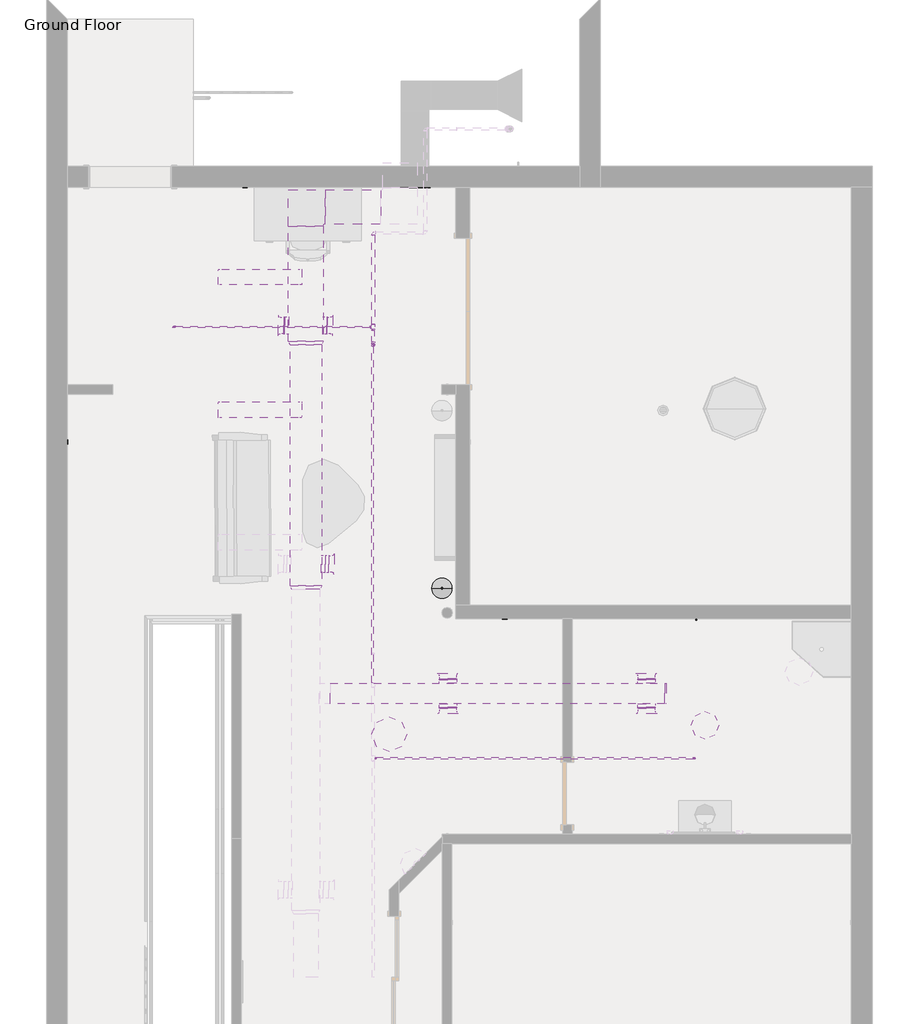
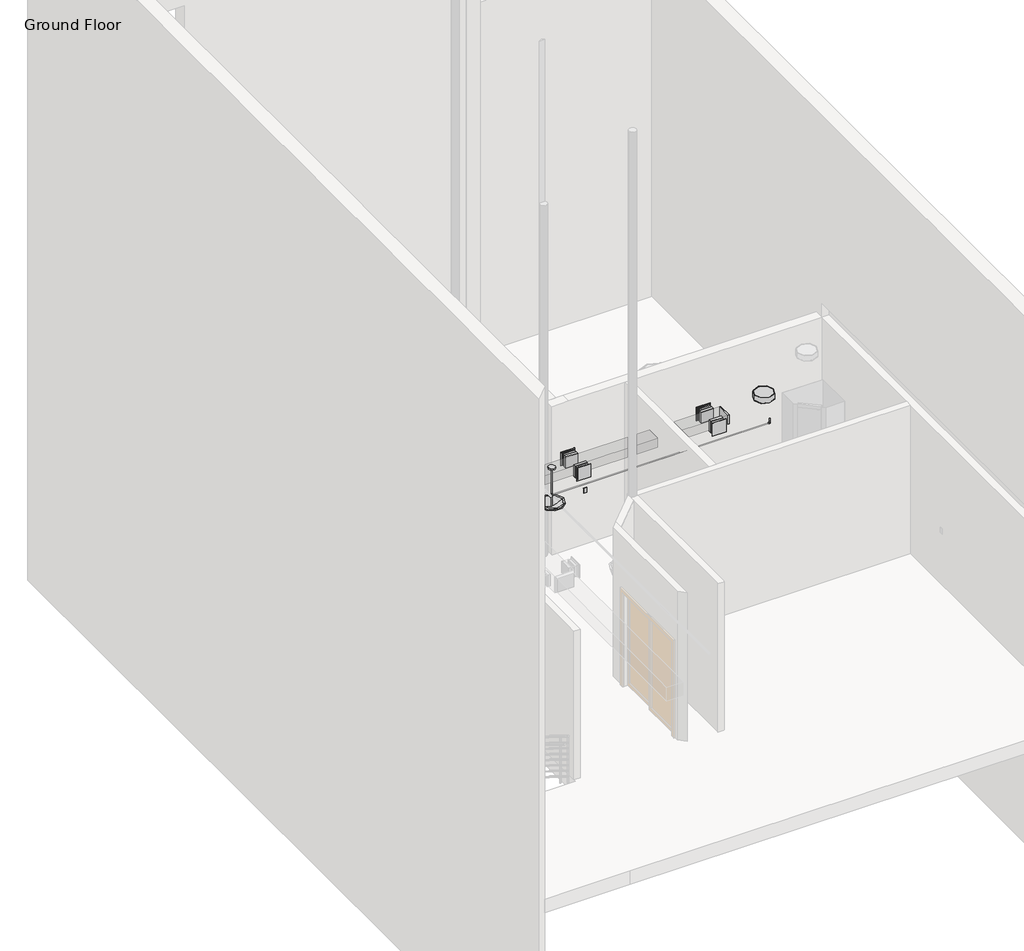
# One storey, part 3 of 4: 21 pipe fittings, 19 pipe segments, 11 duct fittings, 11 duct segments, 8 air terminals, 5 light fixtures, 3 fire suppression terminals, 3 proxies.
"""IFC4 building model written with IfcOpenShell, lengths in millimetres."""

from ifc_helpers import new_model, si_unit, point, frame, frame_2d, origin, place, context, project, spatial, polyline, circle_curve, trimmed, segment, composite_curve, outline, extrude, transform, mapped, element, save
from components import air_terminal_37217d21, air_terminal_0139ce82, air_terminal_831a3b9e, receptacle_gfci_367a9a66, rectangular_duct_endcap_standard_9757fa8c, rectangular_duct_mitered_elbow_standard_69e3689b, rectangular_duct_takeoff_sidewall_standard_8ecd27dc, rectangular_duct_takeoff_sidewall_standard_de4d9739, rectangular_duct_transition_standard_ec693d8a, rectangular_duct_transition_standard_94b557fa, fire_suppression_terminal_f250fbbb, light_fixture_120v_8a54b260, pendant_light_hemisphere_100w_120v_3_drop_98367d5d, light_fixture_b06bbfae, sconce_light_flat_round_100w_120v_d640190c, pipe_elbow_standard_aad62f2d, pipe_elbow1_standard_2_557be1fc, pipe_elbow1_standard_2_feaaf02c, pipe_pvc_bend_standard_2273d009, pipe_pvc_bend_standard_b9ac6717, pipe_pvc_short_sanitary_tee_standard_0621024b, pipe_pvc_short_sanitary_tee1_standard_2_b39521ca, pipe_pvc_transition_eccentric_standard_ba6eeb78, pipe_tee_standard_1a6ca384, pipe_tee_standard_7127fd44, pipe_tee_standard_60c871d1, pipe_transition_eccentric_standard_66cf2955, pipe_transition_eccentric_standard_2cb20447, pipe_transition_eccentric_standard_8de4c794, pipe_transition_eccentric_standard_48f40522, pipe_transition_eccentric_standard_cc8be3f1, pipe_transition_eccentric_standard_a9eec213

model = new_model("IFC4")

# Units and contexts
model_context = context("Model", 3, world=origin())
ifc_project = project(units=[si_unit("LENGTHUNIT", "METRE", prefix="MILLI")], contexts=[model_context])

# Site, building, storey
site = spatial("IfcSite", under=ifc_project)
building = spatial("IfcBuilding", under=site)
storey = spatial("IfcBuildingStorey", under=building, Name="Ground Floor", Elevation=0.0)

# Air terminals
placement = place(None, origin())
air_terminal_shape = air_terminal_37217d21(model_context)
element("IfcAirTerminal", 1, ObjectType="Sidewall Diffuser : 10\" x 10\"", at=placement, inside=storey, context=model_context, shape_type="MappedRepresentation", body=[
    mapped(air_terminal_shape, transform((-581.3861702, 3659.6624975, 2743.2), x_axis=(0.0, 1.0, 0.0), y_axis=(-1.0, 0.0, 0.0), z_axis=(0.0, 0.0, 1.0))),
])
element("IfcAirTerminal", 2, ObjectType="Sidewall Diffuser : 10\" x 10\"", at=placement, inside=storey, context=model_context, shape_type="MappedRepresentation", body=[
    mapped(air_terminal_shape, transform((-1391.5237449, 7139.4624975, 2743.2), x_axis=(0.0, -1.0000000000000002, 0.0), y_axis=(1.0000000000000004, 0.0, 0.0), z_axis=(0.0, 0.0, 1.0000000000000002))),
])
element("IfcAirTerminal", 3, ObjectType="Sidewall Diffuser : 10\" x 10\"", at=placement, inside=storey, context=model_context, shape_type="MappedRepresentation", body=[
    mapped(air_terminal_shape, transform((-601.3838589, 7139.4624975, 2743.2), x_axis=(0.0, 1.0, 0.0), y_axis=(-1.0, 0.0, 0.0), z_axis=(0.0, 0.0, 1.0))),
])
air_terminal_2_shape = air_terminal_0139ce82(model_context)
element("IfcAirTerminal", 4, ObjectType="Sidewall Diffuser : 10\" x 10\"", at=placement, inside=storey, context=model_context, shape_type="MappedRepresentation", body=[
    mapped(air_terminal_2_shape, transform((1080.403313, 2061.6200727, 2743.2), x_axis=(1.0, 0.0, 0.0), y_axis=(0.0, 1.0, 0.0), z_axis=(0.0, 0.0, 1.0))),
])
element("IfcAirTerminal", 5, ObjectType="Sidewall Diffuser : 10\" x 10\"", at=placement, inside=storey, context=model_context, shape_type="MappedRepresentation", body=[
    mapped(air_terminal_shape, transform((1080.403313, 1482.497865, 2743.2), x_axis=(1.0, 0.0, 0.0), y_axis=(0.0, 1.0, 0.0), z_axis=(0.0, 0.0, 1.0))),
])
element("IfcAirTerminal", 6, ObjectType="Sidewall Diffuser : 10\" x 10\"", at=placement, inside=storey, context=model_context, shape_type="MappedRepresentation", body=[
    mapped(air_terminal_shape, transform((3976.003313, 1482.497865, 2743.2), x_axis=(1.0, 0.0, 0.0), y_axis=(0.0, 1.0, 0.0), z_axis=(0.0, 0.0, 1.0))),
])
element("IfcAirTerminal", 7, ObjectType="Sidewall Diffuser : 10\" x 10\"", at=placement, inside=storey, context=model_context, shape_type="MappedRepresentation", body=[
    mapped(air_terminal_2_shape, transform((3976.003313, 2061.6200727, 2743.2), x_axis=(1.0, 0.0, 0.0), y_axis=(0.0, 1.0, 0.0), z_axis=(0.0, 0.0, 1.0))),
])
air_terminal_3_shape = air_terminal_831a3b9e(model_context)
element("IfcAirTerminal", 8, ObjectType="Square Return Grille - Hosted : 16\" x 16\"", at=placement, inside=storey, context=model_context, shape_type="MappedRepresentation", body=[
    mapped(air_terminal_3_shape, transform((-272.3878524, 9152.359643, 1400.175), x_axis=(1.0, 0.0, 0.0), y_axis=(0.0, 0.0, 1.0), z_axis=(0.0, -1.0, 0.0))),
])

# Proxies
receptacle_gfci_shape = receptacle_gfci_367a9a66(model_context)
element("IfcBuildingElementProxy", 9, Name="Receptacle : GFCI", ObjectType="Receptacle : GFCI", at=placement, inside=storey, context=model_context, shape_type="MappedRepresentation", body=[
    mapped(receptacle_gfci_shape, transform((-4467.0439612, 5440.7266583, 1219.2), x_axis=(0.0, 1.0, 0.0), y_axis=(0.0, 0.0, 1.0), z_axis=(1.0, 0.0, 0.0))),
])
element("IfcBuildingElementProxy", 10, Name="Receptacle : GFCI", ObjectType="Receptacle : GFCI", at=placement, inside=storey, context=model_context, shape_type="MappedRepresentation", body=[
    mapped(receptacle_gfci_shape, transform((-1877.8314612, 9152.359643, 457.2), x_axis=(1.0, 0.0, 0.0), y_axis=(0.0, 0.0, 1.0), z_axis=(0.0, -1.0, 0.0))),
])
element("IfcBuildingElementProxy", 11, Name="Receptacle : GFCI", ObjectType="Receptacle : GFCI", at=placement, inside=storey, context=model_context, shape_type="MappedRepresentation", body=[
    mapped(receptacle_gfci_shape, transform((1908.3560388, 2859.509643, 1219.2), x_axis=(1.0, 0.0, 0.0), y_axis=(0.0, 0.0, 1.0), z_axis=(0.0, -1.0, 0.0))),
])

# Duct fittings
rectangular_duct_endcap_standard_shape = rectangular_duct_endcap_standard_9757fa8c(model_context)
element("IfcDuctFitting", 12, ObjectType="Rectangular Duct Endcap : Standard", at=placement, inside=storey, context=model_context, shape_type="MappedRepresentation", body=[
    mapped(rectangular_duct_endcap_standard_shape, transform((4242.161104, 1772.0589688, 2743.2), x_axis=(1.0, 0.0, 0.0), y_axis=(0.0, 1.0, 0.0), z_axis=(0.0, 0.0, 1.0))),
])
rectangular_duct_mitered_elbow_standard_shape = rectangular_duct_mitered_elbow_standard_69e3689b(model_context)
element("IfcDuctFitting", 13, ObjectType="Rectangular Duct Mitered Elbow : Standard", at=placement, inside=storey, context=model_context, shape_type="MappedRepresentation", body=[
    mapped(rectangular_duct_mitered_elbow_standard_shape, transform((-990.238896, 8866.629515, 2743.2), x_axis=(-1.0, 0.0, 0.0), y_axis=(0.0, -1.0, 0.0), z_axis=(0.0, 0.0, 1.0))),
])
rectangular_duct_takeoff_sidewall_standard_shape = rectangular_duct_takeoff_sidewall_standard_8ecd27dc(model_context)
element("IfcDuctFitting", 14, ObjectType="Rectangular Duct Takeoff - Sidewall : Standard", at=placement, inside=storey, context=model_context, shape_type="MappedRepresentation", body=[
    mapped(rectangular_duct_takeoff_sidewall_standard_shape, transform((-761.638896, 3659.6624975, 2743.2), x_axis=(1.0, 0.0, 0.0), y_axis=(0.0, -1.0, 0.0), z_axis=(0.0, 0.0, -1.0))),
])
element("IfcDuctFitting", 15, ObjectType="Rectangular Duct Takeoff - Sidewall : Standard", at=placement, inside=storey, context=model_context, shape_type="MappedRepresentation", body=[
    mapped(rectangular_duct_takeoff_sidewall_standard_shape, transform((-736.238896, 7139.4624975, 2743.2), x_axis=(1.0, 0.0, 0.0), y_axis=(0.0, -1.0, 0.0), z_axis=(0.0, 0.0, -1.0))),
])
element("IfcDuctFitting", 16, ObjectType="Rectangular Duct Takeoff - Sidewall : Standard", at=placement, inside=storey, context=model_context, shape_type="MappedRepresentation", body=[
    mapped(rectangular_duct_takeoff_sidewall_standard_shape, transform((3976.003313, 1924.4589688, 2743.2), x_axis=(0.0, 1.0, 0.0), y_axis=(1.0, 0.0, 0.0), z_axis=(0.0, 0.0, -1.0))),
])
element("IfcDuctFitting", 17, ObjectType="Rectangular Duct Takeoff - Sidewall : Standard", at=placement, inside=storey, context=model_context, shape_type="MappedRepresentation", body=[
    mapped(rectangular_duct_takeoff_sidewall_standard_shape, transform((1080.403313, 1924.4589688, 2743.2), x_axis=(0.0, 1.0, 0.0), y_axis=(1.0, 0.0, 0.0), z_axis=(0.0, 0.0, -1.0))),
])
rectangular_duct_takeoff_sidewall_standard_2_shape = rectangular_duct_takeoff_sidewall_standard_de4d9739(model_context)
element("IfcDuctFitting", 18, ObjectType="Rectangular Duct Takeoff - Sidewall : Standard", at=placement, inside=storey, context=model_context, shape_type="MappedRepresentation", body=[
    mapped(rectangular_duct_takeoff_sidewall_standard_2_shape, transform((-1244.238896, 7139.4624975, 2743.2), x_axis=(-1.0, 0.0, 0.0), y_axis=(0.0, 1.0, 0.0), z_axis=(0.0, 0.0, -1.0))),
])
element("IfcDuctFitting", 19, ObjectType="Rectangular Duct Takeoff - Sidewall : Standard", at=placement, inside=storey, context=model_context, shape_type="MappedRepresentation", body=[
    mapped(rectangular_duct_takeoff_sidewall_standard_2_shape, transform((3976.003313, 1619.6589688, 2743.2), x_axis=(0.0, -1.0, 0.0), y_axis=(-1.0, 0.0, 0.0), z_axis=(0.0, 0.0, -1.0))),
])
element("IfcDuctFitting", 20, ObjectType="Rectangular Duct Takeoff - Sidewall : Standard", at=placement, inside=storey, context=model_context, shape_type="MappedRepresentation", body=[
    mapped(rectangular_duct_takeoff_sidewall_standard_2_shape, transform((1080.403313, 1619.6589688, 2743.2), x_axis=(0.0, -1.0, 0.0), y_axis=(-1.0, 0.0, 0.0), z_axis=(0.0, 0.0, -1.0))),
])
rectangular_duct_transition_standard_shape = rectangular_duct_transition_standard_ec693d8a(model_context)
element("IfcDuctFitting", 21, ObjectType="Rectangular Duct Transition : Standard", at=placement, inside=storey, context=model_context, shape_type="MappedRepresentation", body=[
    mapped(rectangular_duct_transition_standard_shape, transform((-990.238896, 3342.129515, 2743.2), x_axis=(0.0, -1.0, 0.0), y_axis=(1.0, 0.0, 0.0), z_axis=(0.0, 0.0, 1.0))),
])
rectangular_duct_transition_standard_2_shape = rectangular_duct_transition_standard_94b557fa(model_context)
element("IfcDuctFitting", 22, ObjectType="Rectangular Duct Transition : Standard", at=placement, inside=storey, context=model_context, shape_type="MappedRepresentation", body=[
    mapped(rectangular_duct_transition_standard_2_shape, transform((-990.238896, 6907.654515, 2743.2), x_axis=(0.0, -1.0, 0.0), y_axis=(1.0, 0.0, 0.0), z_axis=(0.0, 0.0, 1.0))),
])

# Duct segments
element("IfcDuctSegment", 23, ObjectType="Mitered Elbows / Taps Sidewall", at=placement, inside=storey, context=model_context, shape_type="SweptSolid", body=[
    extrude(outline(polyline([(101.961104, 9120.629515), (101.961104, 8612.629515), (-710.838896, 8612.629515), (-710.838896, 9120.629515), (101.961104, 9120.629515)])), frame((0.0, 0.0, 2540.0), z_axis=(0.0, 0.0, 1.0), x_axis=(1.0, 0.0, 0.0)), (0.0, 0.0, 1.0), 406.4),
])
element("IfcDuctSegment", 24, ObjectType="Mitered Elbows / Taps Sidewall", at=placement, inside=storey, context=model_context, shape_type="SweptSolid", body=[
    extrude(outline(polyline([(-710.838896, 3532.6624975), (-710.838896, 3786.6624975), (-657.5861702, 3786.6624975), (-657.5861702, 3532.6624975), (-710.838896, 3532.6624975)])), frame((0.0, 0.0, 2616.2), z_axis=(0.0, 0.0, 1.0), x_axis=(1.0, 0.0, 0.0)), (0.0, 0.0, 1.0), 254.0),
])
element("IfcDuctSegment", 25, ObjectType="Mitered Elbows / Taps Sidewall", at=placement, inside=storey, context=model_context, shape_type="SweptSolid", body=[
    extrude(outline(polyline([(-685.438896, 7012.4624975), (-685.438896, 7266.4624975), (-677.5838589, 7266.4624975), (-677.5838589, 7012.4624975), (-685.438896, 7012.4624975)])), frame((0.0, 0.0, 2616.2), z_axis=(0.0, 0.0, 1.0), x_axis=(1.0, 0.0, 0.0)), (0.0, 0.0, 1.0), 254.0),
])
element("IfcDuctSegment", 26, ObjectType="Mitered Elbows / Taps Sidewall", at=placement, inside=storey, context=model_context, shape_type="SweptSolid", body=[
    extrude(outline(polyline([(-1295.038896, 7266.4624975), (-1295.038896, 7012.4624975), (-1315.3237449, 7012.4624975), (-1315.3237449, 7266.4624975), (-1295.038896, 7266.4624975)])), frame((0.0, 0.0, 2616.2), z_axis=(0.0, 0.0, 1.0), x_axis=(1.0, 0.0, 0.0)), (0.0, 0.0, 1.0), 254.0),
])
element("IfcDuctSegment", 27, ObjectType="Mitered Elbows / Taps Sidewall", at=placement, inside=storey, context=model_context, shape_type="SweptSolid", body=[
    extrude(outline(polyline([(-1218.838896, 6856.854515), (-761.638896, 6856.854515), (-761.638896, 3342.129515), (-1218.838896, 3342.129515), (-1218.838896, 6856.854515)])), frame((0.0, 0.0, 2540.0), z_axis=(0.0, 0.0, 1.0), x_axis=(1.0, 0.0, 0.0)), (0.0, 0.0, 1.0), 406.4),
])
element("IfcDuctSegment", 28, ObjectType="Mitered Elbows / Taps Sidewall", at=placement, inside=storey, context=model_context, shape_type="SweptSolid", body=[
    extrude(outline(polyline([(-1244.238896, 8587.229515), (-736.238896, 8587.229515), (-736.238896, 6907.654515), (-1244.238896, 6907.654515), (-1244.238896, 8587.229515)])), frame((0.0, 0.0, 2540.0), z_axis=(0.0, 0.0, 1.0), x_axis=(1.0, 0.0, 0.0)), (0.0, 0.0, 1.0), 406.4),
])
element("IfcDuctSegment", 29, ObjectType="Mitered Elbows / Taps Sidewall", at=placement, inside=storey, context=model_context, shape_type="SweptSolid", body=[
    extrude(outline(polyline([(4103.003313, 1558.697865), (3849.003313, 1558.697865), (3849.003313, 1568.8589688), (4103.003313, 1568.8589688), (4103.003313, 1558.697865)])), frame((0.0, 0.0, 2616.2), z_axis=(0.0, 0.0, 1.0), x_axis=(1.0, 0.0, 0.0)), (0.0, 0.0, 1.0), 254.0),
])
element("IfcDuctSegment", 30, ObjectType="Mitered Elbows / Taps Sidewall", at=placement, inside=storey, context=model_context, shape_type="SweptSolid", body=[
    extrude(outline(polyline([(3849.003313, 1985.4200727), (4103.003313, 1985.4200727), (4103.003313, 1975.2589688), (3849.003313, 1975.2589688), (3849.003313, 1985.4200727)])), frame((0.0, 0.0, 2616.2), z_axis=(0.0, 0.0, 1.0), x_axis=(1.0, 0.0, 0.0)), (0.0, 0.0, 1.0), 254.0),
])
element("IfcDuctSegment", 31, ObjectType="Mitered Elbows / Taps Sidewall", at=placement, inside=storey, context=model_context, shape_type="SweptSolid", body=[
    extrude(outline(polyline([(1207.403313, 1558.697865), (953.403313, 1558.697865), (953.403313, 1568.8589688), (1207.403313, 1568.8589688), (1207.403313, 1558.697865)])), frame((0.0, 0.0, 2616.2), z_axis=(0.0, 0.0, 1.0), x_axis=(1.0, 0.0, 0.0)), (0.0, 0.0, 1.0), 254.0),
])
element("IfcDuctSegment", 32, ObjectType="Mitered Elbows / Taps Sidewall", at=placement, inside=storey, context=model_context, shape_type="SweptSolid", body=[
    extrude(outline(polyline([(953.403313, 1985.4200727), (1207.403313, 1985.4200727), (1207.403313, 1975.2589688), (953.403313, 1975.2589688), (953.403313, 1985.4200727)])), frame((0.0, 0.0, 2616.2), z_axis=(0.0, 0.0, 1.0), x_axis=(1.0, 0.0, 0.0)), (0.0, 0.0, 1.0), 254.0),
])
element("IfcDuctSegment", 33, ObjectType="Radius Elbows / Taps", at=placement, inside=storey, context=model_context, shape_type="SweptSolid", body=[
    extrude(outline(polyline([(-634.638896, 1619.6589688), (-634.638896, 1924.4589688), (4242.161104, 1924.4589688), (4242.161104, 1619.6589688), (-634.638896, 1619.6589688)])), frame((0.0, 0.0, 2641.6), z_axis=(0.0, 0.0, 1.0), x_axis=(1.0, 0.0, 0.0)), (0.0, 0.0, 1.0), 203.2),
])

# Fire suppression terminals
fire_suppression_terminal_shape = fire_suppression_terminal_f250fbbb(model_context)
element("IfcFireSuppressionTerminal", 34, ObjectType="Sprinkler - Upright : 1/2\" Upright", at=placement, inside=storey, context=model_context, shape_type="MappedRepresentation", body=[
    mapped(fire_suppression_terminal_shape, transform((-9.3439612, 6866.359643, 3048.0), x_axis=(1.0, 0.0, 0.0), y_axis=(0.0, 1.0, 0.0), z_axis=(0.0, 0.0, 1.0))),
])
element("IfcFireSuppressionTerminal", 35, ObjectType="Sprinkler - Upright : 1/2\" Upright", at=placement, inside=storey, context=model_context, shape_type="MappedRepresentation", body=[
    mapped(fire_suppression_terminal_shape, transform((-2919.0569983, 7117.1266583, 3048.0), x_axis=(1.0, 0.0, 0.0), y_axis=(0.0, 1.0, 0.0), z_axis=(0.0, 0.0, 1.0))),
])
element("IfcFireSuppressionTerminal", 36, ObjectType="Sprinkler - Upright : 1/2\" Upright", at=placement, inside=storey, context=model_context, shape_type="MappedRepresentation", body=[
    mapped(fire_suppression_terminal_shape, transform((4676.9560388, 827.509643, 3048.0), x_axis=(1.0, 0.0, 0.0), y_axis=(0.0, 1.0, 0.0), z_axis=(0.0, 0.0, 1.0))),
])

# Light fixtures
light_fixture_120v_shape = light_fixture_120v_8a54b260(model_context)
element("IfcLightFixture", 37, ObjectType="Floor Lamp - Torchiere : 120V", at=placement, inside=storey, context=model_context, shape_type="MappedRepresentation", body=[
    mapped(light_fixture_120v_shape, transform((993.9560388, 3307.1266583, 0.0), x_axis=(1.0, 0.0, 0.0), y_axis=(0.0, 1.0, 0.0), z_axis=(0.0, 0.0, 1.0))),
])
pendant_light_hemisphere_100w_120v_3_drop_shape = pendant_light_hemisphere_100w_120v_3_drop_98367d5d(model_context)
element("IfcLightFixture", 38, ObjectType="Pendant Light - Hemisphere : 100W - 120V - 3' Drop", at=placement, inside=storey, context=model_context, shape_type="MappedRepresentation", body=[
    mapped(pendant_light_hemisphere_100w_120v_3_drop_shape, transform((225.6060388, 1176.759643, 3352.8), x_axis=(1.0, 0.0, 0.0), y_axis=(0.0, -1.0, 0.0), z_axis=(0.0, 0.0, -1.0))),
])
light_fixture_shape = light_fixture_b06bbfae(model_context)
element("IfcLightFixture", 39, ObjectType="Pendant Light - Linear - 2 Lamp : 48\" - 120V", at=placement, inside=storey, context=model_context, shape_type="MappedRepresentation", body=[
    mapped(light_fixture_shape, transform((-1660.3439612, 7844.259643, 3352.8), x_axis=(1.0, 0.0, 0.0), y_axis=(0.0, -1.0, 0.0), z_axis=(0.0, 0.0, -1.0))),
])
element("IfcLightFixture", 40, ObjectType="Pendant Light - Linear - 2 Lamp : 48\" - 120V", at=placement, inside=storey, context=model_context, shape_type="MappedRepresentation", body=[
    mapped(light_fixture_shape, transform((-1660.3439612, 5910.684643, 3352.8), x_axis=(1.0, 0.0, 0.0), y_axis=(0.0, -1.0, 0.0), z_axis=(0.0, 0.0, -1.0))),
])
sconce_light_flat_round_100w_120v_shape = sconce_light_flat_round_100w_120v_d640190c(model_context)
element("IfcLightFixture", 41, ObjectType="Sconce Light - Flat Round : 100W - 120V", at=placement, inside=storey, context=model_context, shape_type="MappedRepresentation", body=[
    mapped(sconce_light_flat_round_100w_120v_shape, transform((4829.3560388, 1306.934643, 3352.8), x_axis=(1.0, 0.0, 0.0), y_axis=(0.0, -1.0, 0.0), z_axis=(0.0, 0.0, -1.0))),
])

# Pipe fittings
pipe_elbow_standard_shape = pipe_elbow_standard_aad62f2d(model_context)
element("IfcPipeFitting", 42, ObjectType="Pipe Elbow1 : Standard 2", at=placement, inside=storey, context=model_context, shape_type="MappedRepresentation", body=[
    mapped(pipe_elbow_standard_shape, transform((4702.3556442, 2961.109643, 503.2375), x_axis=(0.0, 1.0, 0.0), y_axis=(0.0, 0.0, -1.0), z_axis=(-1.0, 0.0, 0.0))),
])
pipe_elbow1_standard_2_shape = pipe_elbow1_standard_2_557be1fc(model_context)
element("IfcPipeFitting", 43, ObjectType="Pipe Elbow1 : Standard 2", at=placement, inside=storey, context=model_context, shape_type="MappedRepresentation", body=[
    mapped(pipe_elbow1_standard_2_shape, transform((-9.3439612, 8487.1391583, 2997.2), x_axis=(0.0, 1.0, 0.0), y_axis=(1.0, 0.0, 0.0), z_axis=(0.0, 0.0, -1.0))),
])
pipe_elbow1_standard_2_2_shape = pipe_elbow1_standard_2_feaaf02c(model_context)
element("IfcPipeFitting", 44, ObjectType="Pipe Elbow1 : Standard 2", at=placement, inside=storey, context=model_context, shape_type="MappedRepresentation", body=[
    mapped(pipe_elbow1_standard_2_2_shape, transform((-2919.0569983, 7117.1266583, 2997.2), x_axis=(0.0, 0.0, -1.0), y_axis=(1.0, 0.0, 0.0), z_axis=(0.0, -1.0, 0.0))),
])
element("IfcPipeFitting", 45, ObjectType="Pipe Elbow1 : Standard 2", at=placement, inside=storey, context=model_context, shape_type="MappedRepresentation", body=[
    mapped(pipe_elbow1_standard_2_2_shape, transform((4676.9560388, 827.509643, 2997.2), x_axis=(0.0, 0.0, -1.0), y_axis=(-1.0, 0.0, 0.0), z_axis=(0.0, 1.0, 0.0))),
])
pipe_pvc_bend_standard_shape = pipe_pvc_bend_standard_2273d009(model_context)
element("IfcPipeFitting", 46, ObjectType="Pipe PVC Bend : Standard", at=placement, inside=storey, context=model_context, shape_type="MappedRepresentation", body=[
    mapped(pipe_pvc_bend_standard_shape, transform((4829.3389227, 2.803393, -379.3663432), x_axis=(0.0, 0.0, -1.0), y_axis=(-1.0, 0.0, 0.0), z_axis=(0.0, 1.0, 0.0))),
])
pipe_pvc_bend_standard_2_shape = pipe_pvc_bend_standard_b9ac6717(model_context)
element("IfcPipeFitting", 47, ObjectType="Pipe PVC Bend : Standard", at=placement, inside=storey, context=model_context, shape_type="MappedRepresentation", body=[
    mapped(pipe_pvc_bend_standard_2_shape, transform((4219.7390215, 2.803393, -385.7163422), x_axis=(-0.9999457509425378, 0.0, -0.01041610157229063), y_axis=(0.00010848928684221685, 0.9999457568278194, -0.010414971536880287), z_axis=(0.010415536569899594, -0.010415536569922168, -0.9998915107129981))),
])
pipe_pvc_short_sanitary_tee_standard_shape = pipe_pvc_short_sanitary_tee_standard_0621024b(model_context)
element("IfcPipeFitting", 48, ObjectType="Pipe PVC Short Sanitary Tee : Standard", at=placement, inside=storey, context=model_context, shape_type="MappedRepresentation", body=[
    mapped(pipe_pvc_short_sanitary_tee_standard_shape, transform((4219.7390215, 2416.6175086, -410.8602392), x_axis=(0.0, -0.9999457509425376, 0.01041610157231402), y_axis=(0.9999444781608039, 0.00010976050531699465, 0.010537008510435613), z_axis=(-0.010537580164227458, 0.01041552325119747, 0.9998902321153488))),
])
pipe_pvc_short_sanitary_tee1_standard_2_shape = pipe_pvc_short_sanitary_tee1_standard_2_b39521ca(model_context)
element("IfcPipeFitting", 49, ObjectType="Pipe PVC Short Sanitary Tee1 : Standard 2", at=placement, inside=storey, context=model_context, shape_type="MappedRepresentation", body=[
    mapped(pipe_pvc_short_sanitary_tee1_standard_2_shape, transform((4829.3354349, 2416.6175086, -404.435863), x_axis=(0.9999444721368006, 0.0, 0.010538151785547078), y_axis=(-0.010538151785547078, 0.0, 0.9999444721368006), z_axis=(0.0, -1.0, 0.0))),
])
pipe_pvc_transition_eccentric_standard_shape = pipe_pvc_transition_eccentric_standard_ba6eeb78(model_context)
element("IfcPipeFitting", 50, ObjectType="Pipe PVC Transition Eccentric : Standard", at=placement, inside=storey, context=model_context, shape_type="MappedRepresentation", body=[
    mapped(pipe_pvc_transition_eccentric_standard_shape, transform((4877.7192293, 2416.6175086, -403.9259589), x_axis=(0.9999444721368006, 0.0, 0.010538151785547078), y_axis=(-0.010538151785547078, 0.0, 0.9999444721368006), z_axis=(0.0, -1.0, 0.0))),
])
pipe_tee_standard_shape = pipe_tee_standard_1a6ca384(model_context)
element("IfcPipeFitting", 51, ObjectType="Pipe Tee : Standard", at=placement, inside=storey, context=model_context, shape_type="MappedRepresentation", body=[
    mapped(pipe_tee_standard_shape, transform((4295.9556442, 2961.109643, -533.4), x_axis=(0.0, -1.0, 0.0), y_axis=(-1.0, 0.0, 0.0), z_axis=(0.0, 0.0, -1.0))),
])
element("IfcPipeFitting", 52, ObjectType="Pipe Tee : Standard", at=placement, inside=storey, context=model_context, shape_type="MappedRepresentation", body=[
    mapped(pipe_tee_standard_shape, transform((4702.3556442, 2961.109643, -533.4), x_axis=(1.0, 0.0, 0.0), y_axis=(0.0, 0.0, -1.0), z_axis=(0.0, 1.0, 0.0))),
])
element("IfcPipeFitting", 53, ObjectType="Pipe Tee : Standard", at=placement, inside=storey, context=model_context, shape_type="MappedRepresentation", body=[
    mapped(pipe_tee_standard_shape, transform((4346.7556442, 2911.897533, -609.6), x_axis=(0.0, -1.0, 0.0), y_axis=(-1.0, 0.0, 0.0), z_axis=(0.0, 0.0, -1.0))),
])
pipe_tee_standard_2_shape = pipe_tee_standard_7127fd44(model_context)
element("IfcPipeFitting", 54, ObjectType="Pipe Tee : Standard", at=placement, inside=storey, context=model_context, shape_type="MappedRepresentation", body=[
    mapped(pipe_tee_standard_2_shape, transform((-9.3439612, 7117.1266583, 2997.2), x_axis=(0.0, 1.0, 0.0), y_axis=(1.0, 0.0, 0.0), z_axis=(0.0, 0.0, -1.0))),
])
pipe_tee_standard_3_shape = pipe_tee_standard_60c871d1(model_context)
element("IfcPipeFitting", 55, ObjectType="Pipe Tee : Standard", at=placement, inside=storey, context=model_context, shape_type="MappedRepresentation", body=[
    mapped(pipe_tee_standard_3_shape, transform((-9.3439612, 6866.359643, 2997.2), x_axis=(0.0, 1.0, 0.0), y_axis=(0.0, 0.0, -1.0), z_axis=(-1.0, 0.0, 0.0))),
])
pipe_transition_eccentric_standard_shape = pipe_transition_eccentric_standard_66cf2955(model_context)
element("IfcPipeFitting", 56, ObjectType="Pipe Transition Eccentric : Standard", at=placement, inside=storey, context=model_context, shape_type="MappedRepresentation", body=[
    mapped(pipe_transition_eccentric_standard_shape, transform((4219.7390215, 2368.9870779, -410.3640889), x_axis=(0.0, -0.9999457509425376, 0.01041610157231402), y_axis=(0.9999444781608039, 0.00010976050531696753, 0.01053700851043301), z_axis=(-0.010537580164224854, 0.01041552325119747, 0.9998902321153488))),
])
pipe_transition_eccentric_standard_2_shape = pipe_transition_eccentric_standard_2cb20447(model_context)
element("IfcPipeFitting", 57, ObjectType="Pipe Transition Eccentric : Standard", at=placement, inside=storey, context=model_context, shape_type="MappedRepresentation", body=[
    mapped(pipe_transition_eccentric_standard_2_shape, transform((-45.8564612, 7117.1266583, 2997.2), x_axis=(-1.0, 0.0, 0.0), y_axis=(0.0, -1.0, 0.0), z_axis=(0.0, 0.0, 1.0))),
])
pipe_transition_eccentric_standard_3_shape = pipe_transition_eccentric_standard_8de4c794(model_context)
element("IfcPipeFitting", 58, ObjectType="Pipe Transition Eccentric : Standard", at=placement, inside=storey, context=model_context, shape_type="MappedRepresentation", body=[
    mapped(pipe_transition_eccentric_standard_3_shape, transform((-9.3439612, 6866.359643, 3030.5375), x_axis=(0.0, 0.0, 1.0), y_axis=(1.0, 0.0, 0.0), z_axis=(0.0, 1.0, 0.0))),
])
pipe_transition_eccentric_standard_4_shape = pipe_transition_eccentric_standard_48f40522(model_context)
element("IfcPipeFitting", 59, ObjectType="Pipe Transition Eccentric : Standard", at=placement, inside=storey, context=model_context, shape_type="MappedRepresentation", body=[
    mapped(pipe_transition_eccentric_standard_4_shape, transform((-9.3439612, 7080.6141583, 2997.2), x_axis=(0.0, -1.0, 0.0), y_axis=(1.0, 0.0, 0.0), z_axis=(0.0, 0.0, 1.0))),
])
pipe_transition_eccentric_standard_5_shape = pipe_transition_eccentric_standard_cc8be3f1(model_context)
element("IfcPipeFitting", 60, ObjectType="Pipe Transition Eccentric : Standard", at=placement, inside=storey, context=model_context, shape_type="MappedRepresentation", body=[
    mapped(pipe_transition_eccentric_standard_5_shape, transform((23.9935388, 827.509643, 2997.2), x_axis=(1.0, 0.0, 0.0), y_axis=(0.0, 1.0, 0.0), z_axis=(0.0, 0.0, 1.0))),
])
pipe_transition_eccentric_standard_6_shape = pipe_transition_eccentric_standard_a9eec213(model_context)
element("IfcPipeFitting", 61, ObjectType="Pipe Transition Eccentric : Standard", at=placement, inside=storey, context=model_context, shape_type="MappedRepresentation", body=[
    mapped(pipe_transition_eccentric_standard_6_shape, transform((-2919.0569983, 7117.1266583, 3048.0), x_axis=(0.0, 0.0, -1.0), y_axis=(-1.0, 0.0, 0.0), z_axis=(0.0, 1.0, 0.0))),
])
element("IfcPipeFitting", 62, ObjectType="Pipe Transition Eccentric : Standard", at=placement, inside=storey, context=model_context, shape_type="MappedRepresentation", body=[
    mapped(pipe_transition_eccentric_standard_6_shape, transform((4676.9560388, 827.509643, 3048.0), x_axis=(0.0, 0.0, -1.0), y_axis=(-1.0, 0.0, 0.0), z_axis=(0.0, 1.0, 0.0))),
])

# Pipe segments
element("IfcPipeSegment", 63, ObjectType="PVC", at=placement, inside=storey, context=model_context, shape_type="SweptSolid", body=[
    extrude(outline(composite_curve([segment(trimmed(circle_curve(frame_2d((0.0, -21.082)), 21.082), [point((0.0, 0.0))], [point((21.082, -21.082))], False, "CARTESIAN"), True, "CONTINUOUS"), segment(trimmed(circle_curve(frame_2d((0.0, -21.082)), 21.082), [point((21.082, -21.082))], [point((0.0, -42.164))], False, "CARTESIAN"), True, "CONTINUOUS"), segment(trimmed(circle_curve(frame_2d((0.0, -21.082)), 21.082), [point((0.0, -42.164))], [point((-21.082, -21.082))], False, "CARTESIAN"), True, "CONTINUOUS"), segment(trimmed(circle_curve(frame_2d((0.0, -21.082)), 21.082), [point((-21.082, -21.082))], [point((0.0, 0.0))], False, "CARTESIAN"), True, "CONTINUOUS")], self_intersect=False)), frame((4256.6900074, 23.885393, -385.3314361), z_axis=(0.9999457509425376, 0.0, 0.01041610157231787), x_axis=(0.01041610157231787, 0.0, -0.9999457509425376)), (0.0, 0.0, 1.0), 536.1059464),
])
element("IfcPipeSegment", 64, ObjectType="PVC", at=placement, inside=storey, context=model_context, shape_type="SweptSolid", body=[
    extrude(outline(composite_curve([segment(trimmed(circle_curve(frame_2d((4829.3389227, 2.803393)), 21.082), [point((4850.4209227, 2.803393))], [point((4829.3389227, -18.278607))], False, "CARTESIAN"), True, "CONTINUOUS"), segment(trimmed(circle_curve(frame_2d((4829.3389227, 2.803393)), 21.082), [point((4829.3389227, -18.278607))], [point((4808.2569227, 2.803393))], False, "CARTESIAN"), True, "CONTINUOUS"), segment(trimmed(circle_curve(frame_2d((4829.3389227, 2.803393)), 21.082), [point((4808.2569227, 2.803393))], [point((4829.3389227, 23.885393))], False, "CARTESIAN"), True, "CONTINUOUS"), segment(trimmed(circle_curve(frame_2d((4829.3389227, 2.803393)), 21.082), [point((4829.3389227, 23.885393))], [point((4850.4209227, 2.803393))], False, "CARTESIAN"), True, "CONTINUOUS")], self_intersect=False)), frame((0.0, 0.0, -342.792307), z_axis=(0.0, 0.0, 1.0), x_axis=(1.0, 0.0, 0.0)), (0.0, 0.0, 1.0), 971.442307),
])
element("IfcPipeSegment", 65, ObjectType="PVC", at=placement, inside=storey, context=model_context, shape_type="SweptSolid", body=[
    extrude(outline(composite_curve([segment(trimmed(circle_curve(frame_2d((4829.3354349, 2416.6175086)), 44.45), [point((4829.3354349, 2461.0675086))], [point((4873.7854349, 2416.6175086))], False, "CARTESIAN"), True, "CONTINUOUS"), segment(trimmed(circle_curve(frame_2d((4829.3354349, 2416.6175086)), 44.45), [point((4873.7854349, 2416.6175086))], [point((4829.3354349, 2372.1675086))], False, "CARTESIAN"), True, "CONTINUOUS"), segment(trimmed(circle_curve(frame_2d((4829.3354349, 2416.6175086)), 44.45), [point((4829.3354349, 2372.1675086))], [point((4784.8854349, 2416.6175086))], False, "CARTESIAN"), True, "CONTINUOUS"), segment(trimmed(circle_curve(frame_2d((4829.3354349, 2416.6175086)), 44.45), [point((4784.8854349, 2416.6175086))], [point((4829.3354349, 2461.0675086))], False, "CARTESIAN"), True, "CONTINUOUS")], self_intersect=False)), frame((0.0, 0.0, -332.1763991), z_axis=(0.0, 0.0, 1.0), x_axis=(1.0, 0.0, 0.0)), (0.0, 0.0, 1.0), 332.1763991),
])
element("IfcPipeSegment", 66, ObjectType="PVC", at=placement, inside=storey, context=model_context, shape_type="SweptSolid", body=[
    extrude(outline(composite_curve([segment(trimmed(circle_curve(frame_2d((0.0, 44.45)), 44.45), [point((0.0, 0.0))], [point((-44.45, 44.45))], False, "CARTESIAN"), True, "CONTINUOUS"), segment(trimmed(circle_curve(frame_2d((0.0, 44.45)), 44.45), [point((-44.45, 44.45))], [point((0.0, 88.9))], False, "CARTESIAN"), True, "CONTINUOUS"), segment(trimmed(circle_curve(frame_2d((0.0, 44.45)), 44.45), [point((0.0, 88.9))], [point((44.4499999, 44.45))], False, "CARTESIAN"), True, "CONTINUOUS"), segment(trimmed(circle_curve(frame_2d((0.0, 44.45)), 44.45), [point((44.4499999, 44.45))], [point((0.0, 0.0))], False, "CARTESIAN"), True, "CONTINUOUS")], self_intersect=False)), frame((4292.7519518, 2372.1675086, -410.0907752), z_axis=(0.9999444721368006, 0.0, 0.010538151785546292), x_axis=(0.010538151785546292, 0.0, -0.9999444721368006)), (0.0, 0.0, 1.0), 464.3538162),
])
element("IfcPipeSegment", 67, ObjectType="PVC", at=placement, inside=storey, context=model_context, shape_type="SweptSolid", body=[
    extrude(outline(composite_curve([segment(trimmed(circle_curve(frame_2d((0.0, -21.082)), 21.082), [point((21.082, -21.082))], [point((0.0, -42.164))], False, "CARTESIAN"), True, "CONTINUOUS"), segment(trimmed(circle_curve(frame_2d((0.0, -21.082)), 21.082), [point((0.0, -42.164))], [point((-21.082, -21.082))], False, "CARTESIAN"), True, "CONTINUOUS"), segment(trimmed(circle_curve(frame_2d((0.0, -21.082)), 21.082), [point((-21.082, -21.082))], [point((0.0, 0.0))], False, "CARTESIAN"), True, "CONTINUOUS"), segment(trimmed(circle_curve(frame_2d((0.0, -21.082)), 21.082), [point((0.0, 0.0))], [point((21.082, -21.082))], False, "CARTESIAN"), True, "CONTINUOUS")], self_intersect=False)), frame((4219.7390215, 2349.3639966, -389.0765381), z_axis=(0.0, -0.9999457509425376, 0.010416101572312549), x_axis=(1.0, 0.0, 0.0)), (0.0, 0.0, 1.0), 2309.5153145),
])
element("IfcPipeSegment", 68, ObjectType="PVC", at=placement, inside=storey, context=model_context, shape_type="SweptSolid", body=[
    extrude(outline(composite_curve([segment(trimmed(circle_curve(frame_2d((0.0, 30.1625)), 30.1625), [point((0.0, 0.0))], [point((-30.1625001, 30.1625))], False, "CARTESIAN"), True, "CONTINUOUS"), segment(trimmed(circle_curve(frame_2d((0.0, 30.1625)), 30.1625), [point((-30.1625001, 30.1625))], [point((0.0, 60.325))], False, "CARTESIAN"), True, "CONTINUOUS"), segment(trimmed(circle_curve(frame_2d((0.0, 30.1625)), 30.1625), [point((0.0, 60.325))], [point((30.1625, 30.1625))], False, "CARTESIAN"), True, "CONTINUOUS"), segment(trimmed(circle_curve(frame_2d((0.0, 30.1625)), 30.1625), [point((30.1625, 30.1625))], [point((0.0, 0.0))], False, "CARTESIAN"), True, "CONTINUOUS")], self_intersect=False)), frame((4899.9429952, 2386.4550086, -403.6917485), z_axis=(0.9999444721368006, 0.0, 0.010538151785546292), x_axis=(0.010538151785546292, 0.0, -0.9999444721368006)), (0.0, 0.0, 1.0), 1585.7202198),
])
element("IfcPipeSegment", 69, ObjectType="Standard", at=placement, inside=storey, context=model_context, shape_type="SweptSolid", body=[
    extrude(outline(composite_curve([segment(trimmed(circle_curve(frame_2d((503.2375, 4702.3556442)), 7.9375), [point((503.2375, 4710.2931442))], [point((511.175, 4702.3556442))], False, "CARTESIAN"), True, "CONTINUOUS"), segment(trimmed(circle_curve(frame_2d((503.2375, 4702.3556442)), 7.9375), [point((511.175, 4702.3556442))], [point((503.2375, 4694.4181442))], False, "CARTESIAN"), True, "CONTINUOUS"), segment(trimmed(circle_curve(frame_2d((503.2375, 4702.3556442)), 7.9375), [point((503.2375, 4694.4181442))], [point((495.3, 4702.3556442))], False, "CARTESIAN"), True, "CONTINUOUS"), segment(trimmed(circle_curve(frame_2d((503.2375, 4702.3556442)), 7.9375), [point((495.3, 4702.3556442))], [point((503.2375, 4710.2931442))], False, "CARTESIAN"), True, "CONTINUOUS")], self_intersect=False)), frame((0.0, 2843.6550086, 0.0), z_axis=(0.0, 1.0, 0.0), x_axis=(0.0, 0.0, 1.0)), (0.0, 0.0, 1.0), 99.9921343),
])
element("IfcPipeSegment", 70, ObjectType="Standard", at=placement, inside=storey, context=model_context, shape_type="SweptSolid", body=[
    extrude(outline(composite_curve([segment(trimmed(circle_curve(frame_2d((4702.3556442, 2961.109643)), 7.9375), [point((4702.3556442, 2969.047143))], [point((4710.2931442, 2961.109643))], False, "CARTESIAN"), True, "CONTINUOUS"), segment(trimmed(circle_curve(frame_2d((4702.3556442, 2961.109643)), 7.9375), [point((4710.2931442, 2961.109643))], [point((4702.3556442, 2953.172143))], False, "CARTESIAN"), True, "CONTINUOUS"), segment(trimmed(circle_curve(frame_2d((4702.3556442, 2961.109643)), 7.9375), [point((4702.3556442, 2953.172143))], [point((4694.4181442, 2961.109643))], False, "CARTESIAN"), True, "CONTINUOUS"), segment(trimmed(circle_curve(frame_2d((4702.3556442, 2961.109643)), 7.9375), [point((4694.4181442, 2961.109643))], [point((4702.3556442, 2969.047143))], False, "CARTESIAN"), True, "CONTINUOUS")], self_intersect=False)), frame((0.0, 0.0, -509.5875), z_axis=(0.0, 0.0, 1.0), x_axis=(1.0, 0.0, 0.0)), (0.0, 0.0, 1.0), 995.3625),
])
element("IfcPipeSegment", 71, ObjectType="Standard", at=placement, inside=storey, context=model_context, shape_type="SweptSolid", body=[
    extrude(outline(composite_curve([segment(trimmed(circle_curve(frame_2d((2961.109643, -533.4)), 7.9375), [point((2961.109643, -541.3375))], [point((2953.172143, -533.4))], False, "CARTESIAN"), True, "CONTINUOUS"), segment(trimmed(circle_curve(frame_2d((2961.109643, -533.4)), 7.9375), [point((2953.172143, -533.4))], [point((2961.109643, -525.4625))], False, "CARTESIAN"), True, "CONTINUOUS"), segment(trimmed(circle_curve(frame_2d((2961.109643, -533.4)), 7.9375), [point((2961.109643, -525.4625))], [point((2969.047143, -533.4))], False, "CARTESIAN"), True, "CONTINUOUS"), segment(trimmed(circle_curve(frame_2d((2961.109643, -533.4)), 7.9375), [point((2969.047143, -533.4))], [point((2961.109643, -541.3375))], False, "CARTESIAN"), True, "CONTINUOUS")], self_intersect=False)), frame((4319.7681442, 0.0, 0.0), z_axis=(1.0, 0.0, 0.0), x_axis=(0.0, 1.0, 0.0)), (0.0, 0.0, 1.0), 358.775),
])
element("IfcPipeSegment", 72, ObjectType="Standard", at=placement, inside=storey, context=model_context, shape_type="SweptSolid", body=[
    extrude(outline(composite_curve([segment(trimmed(circle_curve(frame_2d((-533.4, 4295.9556442)), 7.9375), [point((-533.4, 4303.8931442))], [point((-525.4625, 4295.9556442))], False, "CARTESIAN"), True, "CONTINUOUS"), segment(trimmed(circle_curve(frame_2d((-533.4, 4295.9556442)), 7.9375), [point((-525.4625, 4295.9556442))], [point((-533.4, 4288.0181442))], False, "CARTESIAN"), True, "CONTINUOUS"), segment(trimmed(circle_curve(frame_2d((-533.4, 4295.9556442)), 7.9375), [point((-533.4, 4288.0181442))], [point((-541.3375, 4295.9556442))], False, "CARTESIAN"), True, "CONTINUOUS"), segment(trimmed(circle_curve(frame_2d((-533.4, 4295.9556442)), 7.9375), [point((-541.3375, 4295.9556442))], [point((-533.4, 4303.8931442))], False, "CARTESIAN"), True, "CONTINUOUS")], self_intersect=False)), frame((0.0, -367.8773725, 0.0), z_axis=(0.0, 1.0, 0.0), x_axis=(0.0, 0.0, 1.0)), (0.0, 0.0, 1.0), 3305.1745154),
])
element("IfcPipeSegment", 73, ObjectType="Standard", at=placement, inside=storey, context=model_context, shape_type="SweptSolid", body=[
    extrude(outline(composite_curve([segment(trimmed(circle_curve(frame_2d((-609.6, 4346.7556442)), 7.9375), [point((-609.6, 4354.6931442))], [point((-601.6625, 4346.7556442))], False, "CARTESIAN"), True, "CONTINUOUS"), segment(trimmed(circle_curve(frame_2d((-609.6, 4346.7556442)), 7.9375), [point((-601.6625, 4346.7556442))], [point((-609.6, 4338.8181442))], False, "CARTESIAN"), True, "CONTINUOUS"), segment(trimmed(circle_curve(frame_2d((-609.6, 4346.7556442)), 7.9375), [point((-609.6, 4338.8181442))], [point((-617.5375, 4346.7556442))], False, "CARTESIAN"), True, "CONTINUOUS"), segment(trimmed(circle_curve(frame_2d((-609.6, 4346.7556442)), 7.9375), [point((-617.5375, 4346.7556442))], [point((-609.6, 4354.6931442))], False, "CARTESIAN"), True, "CONTINUOUS")], self_intersect=False)), frame((0.0, -329.777857, 0.0), z_axis=(0.0, 1.0, 0.0), x_axis=(0.0, 0.0, 1.0)), (0.0, 0.0, 1.0), 3217.8628901),
])
element("IfcPipeSegment", 74, ObjectType="Standard", at=placement, inside=storey, context=model_context, shape_type="SweptSolid", body=[
    extrude(outline(composite_curve([segment(trimmed(circle_curve(frame_2d((2997.2, -9.3439612)), 17.4625), [point((2997.2, 8.1185388))], [point((3014.6625, -9.3439612))], False, "CARTESIAN"), True, "CONTINUOUS"), segment(trimmed(circle_curve(frame_2d((2997.2, -9.3439612)), 17.4625), [point((3014.6625, -9.3439612))], [point((2997.2, -26.8064612))], False, "CARTESIAN"), True, "CONTINUOUS"), segment(trimmed(circle_curve(frame_2d((2997.2, -9.3439612)), 17.4625), [point((2997.2, -26.8064612))], [point((2979.7375, -9.3439612))], False, "CARTESIAN"), True, "CONTINUOUS"), segment(trimmed(circle_curve(frame_2d((2997.2, -9.3439612)), 17.4625), [point((2979.7375, -9.3439612))], [point((2997.2, 8.1185388))], False, "CARTESIAN"), True, "CONTINUOUS")], self_intersect=False)), frame((0.0, 1927.647143, 0.0), z_axis=(0.0, 1.0, 0.0), x_axis=(0.0, 0.0, 1.0)), (0.0, 0.0, 1.0), 4905.375),
])
element("IfcPipeSegment", 75, ObjectType="Standard", at=placement, inside=storey, context=model_context, shape_type="SweptSolid", body=[
    extrude(outline(composite_curve([segment(trimmed(circle_curve(frame_2d((0.0, -7.9375)), 7.9375), [point((-7.9375, -7.9375))], [point((0.0, 0.0))], False, "CARTESIAN"), True, "CONTINUOUS"), segment(trimmed(circle_curve(frame_2d((0.0, -7.9375)), 7.9375), [point((0.0, 0.0))], [point((7.9375, -7.9375))], False, "CARTESIAN"), True, "CONTINUOUS"), segment(trimmed(circle_curve(frame_2d((0.0, -7.9375)), 7.9375), [point((7.9375, -7.9375))], [point((0.0, -15.875))], False, "CARTESIAN"), True, "CONTINUOUS"), segment(trimmed(circle_curve(frame_2d((0.0, -7.9375)), 7.9375), [point((0.0, -15.875))], [point((-7.9375, -7.9375))], False, "CARTESIAN"), True, "CONTINUOUS")], self_intersect=False)), frame((-9.3439612, 6858.422143, 3039.26875), z_axis=(0.0, 1.5006662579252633e-12, 1.0), x_axis=(-1.0, 0.0, 0.0)), (0.0, 0.0, 1.0), 8.73125),
])
element("IfcPipeSegment", 76, ObjectType="Standard", at=placement, inside=storey, context=model_context, shape_type="SweptSolid", body=[
    extrude(outline(composite_curve([segment(trimmed(circle_curve(frame_2d((7117.1266583, 2997.2)), 11.1125), [point((7106.0141583, 2997.2))], [point((7117.1266583, 3008.3125))], False, "CARTESIAN"), True, "CONTINUOUS"), segment(trimmed(circle_curve(frame_2d((7117.1266583, 2997.2)), 11.1125), [point((7117.1266583, 3008.3125))], [point((7128.2391583, 2997.2))], False, "CARTESIAN"), True, "CONTINUOUS"), segment(trimmed(circle_curve(frame_2d((7117.1266583, 2997.2)), 11.1125), [point((7128.2391583, 2997.2))], [point((7117.1266583, 2986.0875))], False, "CARTESIAN"), True, "CONTINUOUS"), segment(trimmed(circle_curve(frame_2d((7117.1266583, 2997.2)), 11.1125), [point((7117.1266583, 2986.0875))], [point((7106.0141583, 2997.2))], False, "CARTESIAN"), True, "CONTINUOUS")], self_intersect=False)), frame((-2898.4194983, 0.0, 0.0), z_axis=(1.0, 0.0, 0.0), x_axis=(0.0, 1.0, 0.0)), (0.0, 0.0, 1.0), 2842.2442871),
])
element("IfcPipeSegment", 77, ObjectType="Standard", at=placement, inside=storey, context=model_context, shape_type="SweptSolid", body=[
    extrude(outline(composite_curve([segment(trimmed(circle_curve(frame_2d((2997.2, -9.3439612)), 17.4625), [point((2997.2, -26.8064612))], [point((2979.7375, -9.3439612))], False, "CARTESIAN"), True, "CONTINUOUS"), segment(trimmed(circle_curve(frame_2d((2997.2, -9.3439612)), 17.4625), [point((2979.7375, -9.3439612))], [point((2997.2, 8.1185388))], False, "CARTESIAN"), True, "CONTINUOUS"), segment(trimmed(circle_curve(frame_2d((2997.2, -9.3439612)), 17.4625), [point((2997.2, 8.1185388))], [point((3014.6625, -9.3439612))], False, "CARTESIAN"), True, "CONTINUOUS"), segment(trimmed(circle_curve(frame_2d((2997.2, -9.3439612)), 17.4625), [point((3014.6625, -9.3439612))], [point((2997.2, -26.8064612))], False, "CARTESIAN"), True, "CONTINUOUS")], self_intersect=False)), frame((0.0, 6899.697143, 0.0), z_axis=(0.0, 1.0, 0.0), x_axis=(0.0, 0.0, 1.0)), (0.0, 0.0, 1.0), 170.5982654),
])
element("IfcPipeSegment", 78, ObjectType="Standard", at=placement, inside=storey, context=model_context, shape_type="SweptSolid", body=[
    extrude(outline(composite_curve([segment(trimmed(circle_curve(frame_2d((-2919.0569983, 7117.1266583)), 11.1125), [point((-2907.9444983, 7117.1266583))], [point((-2919.0569983, 7106.0141583))], False, "CARTESIAN"), True, "CONTINUOUS"), segment(trimmed(circle_curve(frame_2d((-2919.0569983, 7117.1266583)), 11.1125), [point((-2919.0569983, 7106.0141583))], [point((-2930.1694983, 7117.1266583))], False, "CARTESIAN"), True, "CONTINUOUS"), segment(trimmed(circle_curve(frame_2d((-2919.0569983, 7117.1266583)), 11.1125), [point((-2930.1694983, 7117.1266583))], [point((-2919.0569983, 7128.2391583))], False, "CARTESIAN"), True, "CONTINUOUS"), segment(trimmed(circle_curve(frame_2d((-2919.0569983, 7117.1266583)), 11.1125), [point((-2919.0569983, 7128.2391583))], [point((-2907.9444983, 7117.1266583))], False, "CARTESIAN"), True, "CONTINUOUS")], self_intersect=False)), frame((0.0, 0.0, 3017.8375), z_axis=(0.0, 0.0, 1.0), x_axis=(1.0, 0.0, 0.0)), (0.0, 0.0, 1.0), 27.384375),
])
element("IfcPipeSegment", 79, ObjectType="Standard", at=placement, inside=storey, context=model_context, shape_type="SweptSolid", body=[
    extrude(outline(composite_curve([segment(trimmed(circle_curve(frame_2d((827.509643, 2997.2)), 11.1125), [point((816.397143, 2997.2))], [point((827.509643, 3008.3125))], False, "CARTESIAN"), True, "CONTINUOUS"), segment(trimmed(circle_curve(frame_2d((827.509643, 2997.2)), 11.1125), [point((827.509643, 3008.3125))], [point((838.622143, 2997.2))], False, "CARTESIAN"), True, "CONTINUOUS"), segment(trimmed(circle_curve(frame_2d((827.509643, 2997.2)), 11.1125), [point((838.622143, 2997.2))], [point((827.509643, 2986.0875))], False, "CARTESIAN"), True, "CONTINUOUS"), segment(trimmed(circle_curve(frame_2d((827.509643, 2997.2)), 11.1125), [point((827.509643, 2986.0875))], [point((816.397143, 2997.2))], False, "CARTESIAN"), True, "CONTINUOUS")], self_intersect=False)), frame((32.7247888, 0.0, 0.0), z_axis=(1.0, 0.0, 0.0), x_axis=(0.0, 1.0, 0.0)), (0.0, 0.0, 1.0), 4623.59375),
])
element("IfcPipeSegment", 80, ObjectType="Standard", at=placement, inside=storey, context=model_context, shape_type="SweptSolid", body=[
    extrude(outline(composite_curve([segment(trimmed(circle_curve(frame_2d((4676.9560388, 827.509643)), 11.1125), [point((4688.0685388, 827.509643))], [point((4676.9560388, 816.397143))], False, "CARTESIAN"), True, "CONTINUOUS"), segment(trimmed(circle_curve(frame_2d((4676.9560388, 827.509643)), 11.1125), [point((4676.9560388, 816.397143))], [point((4665.8435388, 827.509643))], False, "CARTESIAN"), True, "CONTINUOUS"), segment(trimmed(circle_curve(frame_2d((4676.9560388, 827.509643)), 11.1125), [point((4665.8435388, 827.509643))], [point((4676.9560388, 838.622143))], False, "CARTESIAN"), True, "CONTINUOUS"), segment(trimmed(circle_curve(frame_2d((4676.9560388, 827.509643)), 11.1125), [point((4676.9560388, 838.622143))], [point((4688.0685388, 827.509643))], False, "CARTESIAN"), True, "CONTINUOUS")], self_intersect=False)), frame((0.0, 0.0, 3017.8375), z_axis=(0.0, 0.0, 1.0), x_axis=(1.0, 0.0, 0.0)), (0.0, 0.0, 1.0), 27.384375),
])
element("IfcPipeSegment", 81, ObjectType="Standard", at=placement, inside=storey, context=model_context, shape_type="SweptSolid", body=[
    extrude(outline(composite_curve([segment(trimmed(circle_curve(frame_2d((2997.2, -9.3439612)), 20.6375), [point((2997.2, 11.2935388))], [point((3017.8375, -9.3439612))], False, "CARTESIAN"), True, "CONTINUOUS"), segment(trimmed(circle_curve(frame_2d((2997.2, -9.3439612)), 20.6375), [point((3017.8375, -9.3439612))], [point((2997.2, -29.9814612))], False, "CARTESIAN"), True, "CONTINUOUS"), segment(trimmed(circle_curve(frame_2d((2997.2, -9.3439612)), 20.6375), [point((2997.2, -29.9814612))], [point((2976.5625, -9.3439612))], False, "CARTESIAN"), True, "CONTINUOUS"), segment(trimmed(circle_curve(frame_2d((2997.2, -9.3439612)), 20.6375), [point((2976.5625, -9.3439612))], [point((2997.2, 11.2935388))], False, "CARTESIAN"), True, "CONTINUOUS")], self_intersect=False)), frame((0.0, 7153.6391583, 0.0), z_axis=(0.0, 1.0, 0.0), x_axis=(0.0, 0.0, 1.0)), (0.0, 0.0, 1.0), 1303.3375),
])

save(model, "model.ifc")
